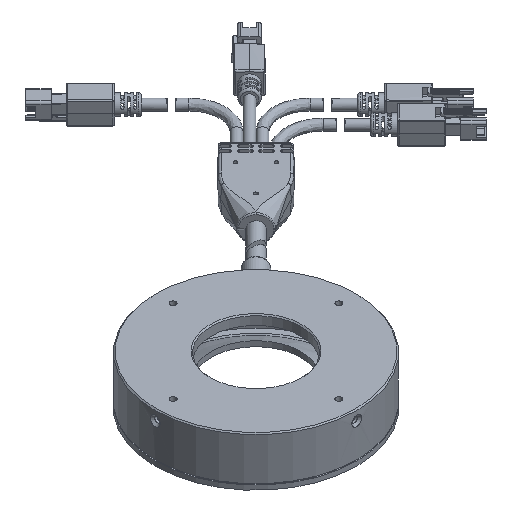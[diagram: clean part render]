
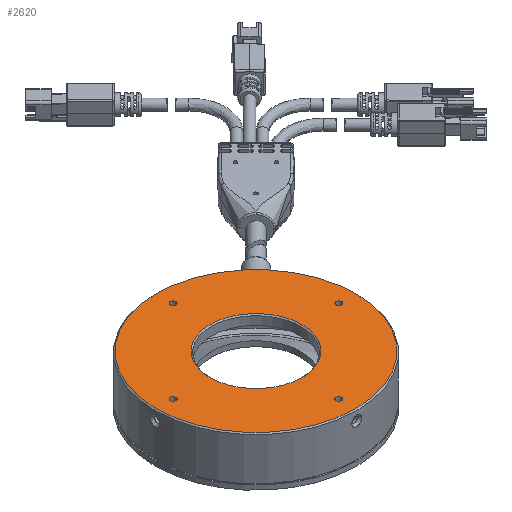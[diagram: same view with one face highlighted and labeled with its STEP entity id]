
A CAD part, isometric view. The second image highlights one B-rep face of the part: STEP entity #2620.
In plain terms, the highlighted planar face has unit normal (0, 0, 1).
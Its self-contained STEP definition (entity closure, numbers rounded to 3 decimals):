
#1351 = DIRECTION ( 'NONE',  ( 1., 0., 0. ) ) ;
#1519 = VERTEX_POINT ( 'NONE', #20645 ) ;
#1639 = FACE_BOUND ( 'NONE', #28460, .T. ) ;
#1816 = ORIENTED_EDGE ( 'NONE', *, *, #32669, .F. ) ;
#1864 = CARTESIAN_POINT ( 'NONE',  ( 1.25, 37., 0. ) ) ;
#2045 = EDGE_LOOP ( 'NONE', ( #10673 ) ) ;
#2620 = ADVANCED_FACE ( 'NONE', ( #1639, #32882, #35229, #31436, #30015, #4951 ), #37368, .F. ) ;
#3658 = EDGE_CURVE ( 'NONE', #17807, #17807, #13472, .T. ) ;
#3692 = DIRECTION ( 'NONE',  ( 1., 0., 0. ) ) ;
#4480 = AXIS2_PLACEMENT_3D ( 'NONE', #34749, #14019, #25891 ) ;
#4951 = FACE_BOUND ( 'NONE', #2045, .T. ) ;
#5072 = AXIS2_PLACEMENT_3D ( 'NONE', #16302, #19191, #3692 ) ;
#7537 = AXIS2_PLACEMENT_3D ( 'NONE', #13452, #37481, #1351 ) ;
#8167 = AXIS2_PLACEMENT_3D ( 'NONE', #9811, #36780, #21442 ) ;
#8658 = VERTEX_POINT ( 'NONE', #1864 ) ;
#9619 = VERTEX_POINT ( 'NONE', #38883 ) ;
#9811 = CARTESIAN_POINT ( 'NONE',  ( 0., 0., 0. ) ) ;
#10515 = CARTESIAN_POINT ( 'NONE',  ( 1.25, -37., 0. ) ) ;
#10673 = ORIENTED_EDGE ( 'NONE', *, *, #3658, .F. ) ;
#10702 = DIRECTION ( 'NONE',  ( 1., 0., 0. ) ) ;
#11465 = VERTEX_POINT ( 'NONE', #23649 ) ;
#11595 = EDGE_CURVE ( 'NONE', #8658, #8658, #23305, .T. ) ;
#12660 = EDGE_LOOP ( 'NONE', ( #19980 ) ) ;
#13411 = DIRECTION ( 'NONE',  ( 0., 0., -1. ) ) ;
#13452 = CARTESIAN_POINT ( 'NONE',  ( 37., 0., 0. ) ) ;
#13472 = CIRCLE ( 'NONE', #4480, 1.25 ) ;
#13644 = CIRCLE ( 'NONE', #15320, 20.5 ) ;
#13719 = DIRECTION ( 'NONE',  ( 0., 0., -1. ) ) ;
#14019 = DIRECTION ( 'NONE',  ( 0., 0., 1. ) ) ;
#15320 = AXIS2_PLACEMENT_3D ( 'NONE', #25121, #13411, #37439 ) ;
#16157 = ORIENTED_EDGE ( 'NONE', *, *, #27993, .F. ) ;
#16302 = CARTESIAN_POINT ( 'NONE',  ( -37., 0., 0. ) ) ;
#16549 = CARTESIAN_POINT ( 'NONE',  ( 0., 37., 0. ) ) ;
#17807 = VERTEX_POINT ( 'NONE', #10515 ) ;
#19191 = DIRECTION ( 'NONE',  ( 0., 0., 1. ) ) ;
#19980 = ORIENTED_EDGE ( 'NONE', *, *, #35588, .T. ) ;
#20502 = EDGE_LOOP ( 'NONE', ( #1816 ) ) ;
#20645 = CARTESIAN_POINT ( 'NONE',  ( -35.75, 0., 0. ) ) ;
#21442 = DIRECTION ( 'NONE',  ( -1., 0., 0. ) ) ;
#22718 = ORIENTED_EDGE ( 'NONE', *, *, #35471, .T. ) ;
#23305 = CIRCLE ( 'NONE', #33013, 1.25 ) ;
#23649 = CARTESIAN_POINT ( 'NONE',  ( -20.5, 0., 0. ) ) ;
#23782 = CARTESIAN_POINT ( 'NONE',  ( -44.5, 0., 0. ) ) ;
#25121 = CARTESIAN_POINT ( 'NONE',  ( 0., 0., 0. ) ) ;
#25891 = DIRECTION ( 'NONE',  ( 1., 0., 0. ) ) ;
#26256 = CIRCLE ( 'NONE', #7537, 1.25 ) ;
#27993 = EDGE_CURVE ( 'NONE', #9619, #9619, #26256, .T. ) ;
#28460 = EDGE_LOOP ( 'NONE', ( #16157 ) ) ;
#28791 = DIRECTION ( 'NONE',  ( 0., 0., 1. ) ) ;
#29202 = EDGE_LOOP ( 'NONE', ( #31623 ) ) ;
#30015 = FACE_BOUND ( 'NONE', #12660, .T. ) ;
#31436 = FACE_OUTER_BOUND ( 'NONE', #38254, .T. ) ;
#31623 = ORIENTED_EDGE ( 'NONE', *, *, #11595, .F. ) ;
#32181 = CIRCLE ( 'NONE', #5072, 1.25 ) ;
#32669 = EDGE_CURVE ( 'NONE', #1519, #1519, #32181, .T. ) ;
#32752 = VERTEX_POINT ( 'NONE', #23782 ) ;
#32882 = FACE_BOUND ( 'NONE', #29202, .T. ) ;
#33013 = AXIS2_PLACEMENT_3D ( 'NONE', #16549, #28791, #10702 ) ;
#34570 = CARTESIAN_POINT ( 'NONE',  ( 20., 0., 0. ) ) ;
#34749 = CARTESIAN_POINT ( 'NONE',  ( 0., -37., 0. ) ) ;
#34899 = AXIS2_PLACEMENT_3D ( 'NONE', #34570, #13719, #37763 ) ;
#35229 = FACE_BOUND ( 'NONE', #20502, .T. ) ;
#35471 = EDGE_CURVE ( 'NONE', #32752, #32752, #37741, .T. ) ;
#35588 = EDGE_CURVE ( 'NONE', #11465, #11465, #13644, .T. ) ;
#36780 = DIRECTION ( 'NONE',  ( 0., 0., 1. ) ) ;
#37368 = PLANE ( 'NONE',  #34899 ) ;
#37439 = DIRECTION ( 'NONE',  ( -1., 0., 0. ) ) ;
#37481 = DIRECTION ( 'NONE',  ( 0., 0., 1. ) ) ;
#37741 = CIRCLE ( 'NONE', #8167, 44.5 ) ;
#37763 = DIRECTION ( 'NONE',  ( -1., 0., 0. ) ) ;
#38254 = EDGE_LOOP ( 'NONE', ( #22718 ) ) ;
#38883 = CARTESIAN_POINT ( 'NONE',  ( 38.25, 0., 0. ) ) ;
